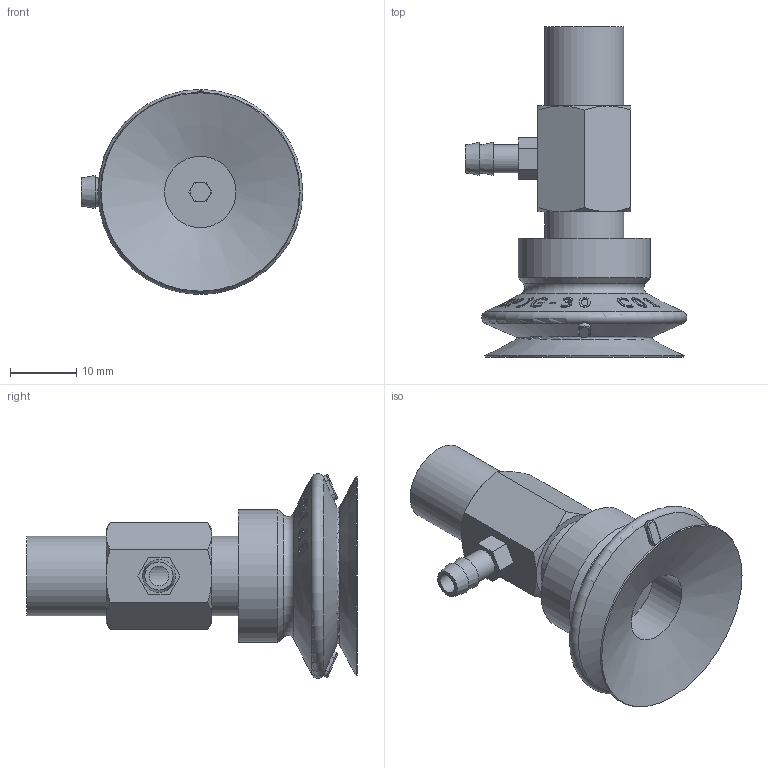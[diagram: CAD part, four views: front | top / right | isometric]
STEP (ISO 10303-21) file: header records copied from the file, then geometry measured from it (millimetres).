
FILE_DESCRIPTION(('STEP AP214'),'1');
FILE_NAME('.stp','2026-01-22T05:22:45',(' '),(' '),'Spatial InterOp 3D',' ',' ');
FILE_SCHEMA(('AUTOMOTIVE_DESIGN { 1 0 10303 214 1 1 1 1 }'));
Length unit declared in the file: millimetre
Products named in the file (4): BBPJYK-30-※; BPJG-30-※; Adapter-30-PJ; BPJYK-30
Assembly tree (3 placements, depth 2):
  BBPJYK-30-※
    BPJG-30-※
    Adapter-30-PJ
    BPJYK-30
Bounding box: 33.5 x 50 x 30.99 mm (x, y, z)
Volume: 10255.2 mm3; surface area: 6610.1 mm2
Topology: 3 solids, 3 shells, 720 faces, 2034 edges, 1343 vertices
Faces by surface type: plane 652, cone 40, cylinder 21, torus 7
Full cylindrical faces by diameter (mm): 3 x2, 4.26 x1, 4.917 x2, 5 x1, 5.8 x1, 6 x1, 10.8 x1, 11 x1, 12 x2, 20 x1
Entity records: 29794 total; most frequent: CARTESIAN_POINT 7504, ORIENTED_EDGE 3992, DIRECTION 2463, EDGE_CURVE 1996, VERTEX_POINT 1336, B_SPLINE_CURVE_WITH_KNOTS 1058, LINE 861, VECTOR 861
